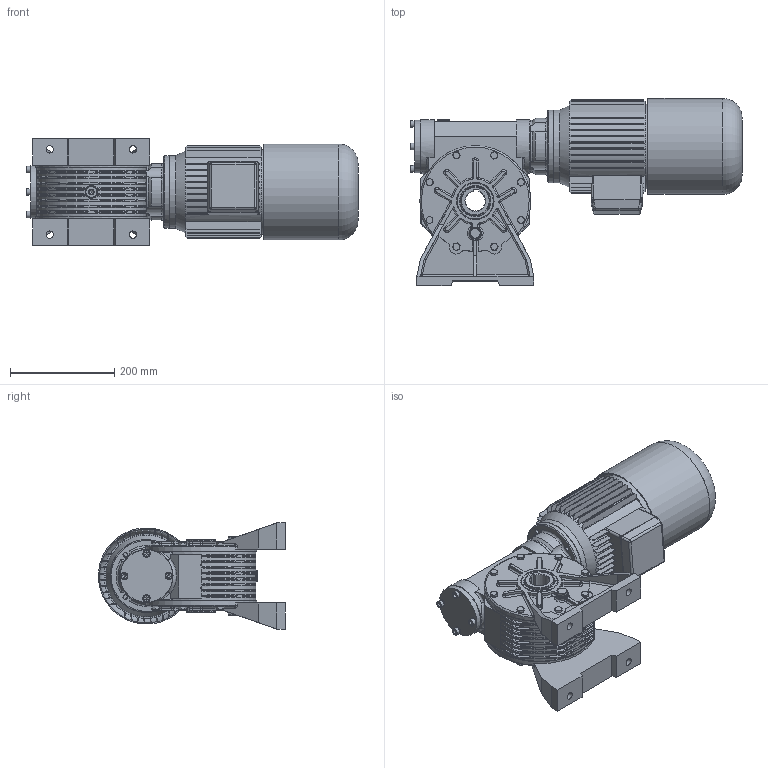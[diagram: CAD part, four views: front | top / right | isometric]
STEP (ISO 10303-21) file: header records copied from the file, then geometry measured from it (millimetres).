
FILE_DESCRIPTION((''),'2;1');
FILE_NAME('Y:\Archivi Inventor\Prog_01\GRAND_50\complessivi\Figurini\MRV50 sito\90s_autofrenante\mrv50_P2_90S_B14.stp','2013-02-08T10:31:49',('tech3'),(''),'Autodesk Inventor 2013','Autodesk Inventor 2013','');
FILE_SCHEMA(('AUTOMOTIVE_DESIGN { 1 0 10303 214 1 1 1 1 }'));
Length unit declared in the file: millimetre
Products named in the file (18): mrv50_90s_90l_b14; mrv50_fig; Figurino_carcassa_MRV50; 0105028; 0105029; figurino_corona_MRV50; figurino_0105010; Guarnizione 3_8 GAS; Tappo 3_8 GAS_esagn_incsst; Tappo3_8 GAS; figurino_0105009; ISO 4017 M8 x 20; 55_70_8; UNI 6592 8.4 x 14; UNI 5931  M 8 x  25; 0105006; DIN EN ISO 4762 M8 x 25; motori B14 brake 90S
Assembly tree (50 placements, depth 3):
  mrv50_90s_90l_b14
    mrv50_fig
      Figurino_carcassa_MRV50
      0105028  x2
      0105029  x2
      figurino_corona_MRV50
      figurino_0105010  x2
      Guarnizione 3_8 GAS  x4
      Tappo 3_8 GAS_esagn_incsst  x2
      Tappo3_8 GAS  x2
      figurino_0105009
      ISO 4017 M8 x 20  x16
      55_70_8  x2
      UNI 6592 8.4 x 14  x4
      UNI 5931  M 8 x  25  x4
    0105006
    DIN EN ISO 4762 M8 x 25  x4
    motori B14 brake 90S
Bounding box: 637.8 x 359.18 x 203.7 mm (x, y, z)
Volume: 10816125.7 mm3; surface area: 1329591.2 mm2
Topology: 62 solids, 64 shells, 2125 faces, 5049 edges, 2996 vertices
Faces by surface type: plane 917, cylinder 619, cone 228, bspline 162, torus 161, sphere 38
Full cylindrical faces by diameter (mm): 2 x2, 5 x1, 6.647 x28, 8 x26, 8.4 x4, 8.5 x48, 9 x4, 11.63 x16, 13 x12, 13.046 x2, 14 x12, 14.95 x4, 16.3 x4, 16.5 x2, 22 x8, 24 x3, 55 x1, 60 x1, 66.4 x2, 69 x2, 70 x6, 72 x4, 73 x2, 75 x1, 95 x1, 99.5 x2, 101 x1, 102 x2, 140 x2, 162.8 x1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
Entity records: 49780 total; most frequent: CARTESIAN_POINT 16579, DIRECTION 6850, ORIENTED_EDGE 6340, EDGE_CURVE 3170, AXIS2_PLACEMENT_3D 2681, VERTEX_POINT 2036, EDGE_LOOP 1794, VECTOR 1488
